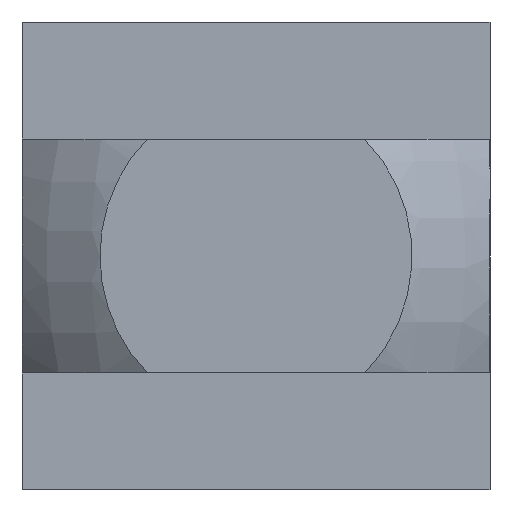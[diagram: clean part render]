
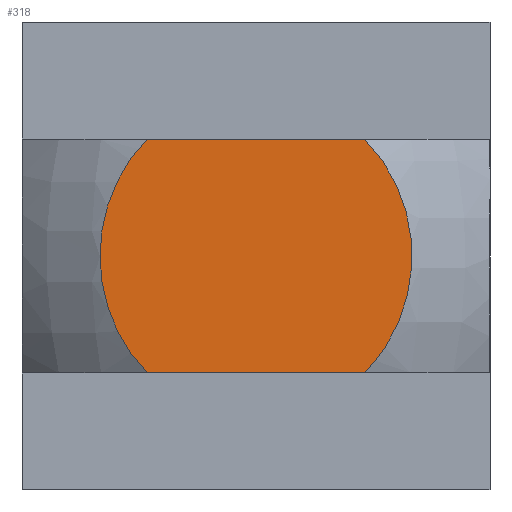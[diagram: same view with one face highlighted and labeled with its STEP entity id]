
A CAD part, left-side view. The second image highlights one B-rep face of the part: STEP entity #318.
In plain terms, the highlighted planar face has unit normal (-1, 0, 0).
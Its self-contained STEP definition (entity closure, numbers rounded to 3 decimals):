
#29 = CARTESIAN_POINT ( 'NONE',  ( -21., -5.334, 0.364 ) ) ;
#30 = CARTESIAN_POINT ( 'NONE',  ( -21., -5.298, 0.737 ) ) ;
#31 = CARTESIAN_POINT ( 'NONE',  ( -21., -5.158, 1.461 ) ) ;
#32 = CARTESIAN_POINT ( 'NONE',  ( -21., -5.055, 1.813 ) ) ;
#33 = CARTESIAN_POINT ( 'NONE',  ( -21., -4.848, 2.328 ) ) ;
#48 = CARTESIAN_POINT ( 'NONE',  ( -21., -5.193, -1.283 ) ) ;
#49 = CARTESIAN_POINT ( 'NONE',  ( -21., -5.298, -0.738 ) ) ;
#55 = CARTESIAN_POINT ( 'NONE',  ( -21., -5.333, -0.372 ) ) ;
#68 = CARTESIAN_POINT ( 'NONE',  ( -21., -5.148, -1.464 ) ) ;
#69 = CARTESIAN_POINT ( 'NONE',  ( -21., -3.969, -3.739 ) ) ;
#71 = CARTESIAN_POINT ( 'NONE',  ( -21., -4.983, -1.992 ) ) ;
#72 = CARTESIAN_POINT ( 'NONE',  ( -21., -4.607, -2.83 ) ) ;
#74 = CARTESIAN_POINT ( 'NONE',  ( -21., -4.777, -2.502 ) ) ;
#75 = CARTESIAN_POINT ( 'NONE',  ( -21., -5.044, -1.818 ) ) ;
#76 = CARTESIAN_POINT ( 'NONE',  ( -21., -4.2, -3.452 ) ) ;
#78 = CARTESIAN_POINT ( 'NONE',  ( -21., -3.712, -4. ) ) ;
#79 = CARTESIAN_POINT ( 'NONE',  ( -21., -3.712, 4. ) ) ;
#80 = CARTESIAN_POINT ( 'NONE',  ( -21., -3.712, -4. ) ) ;
#91 = CARTESIAN_POINT ( 'NONE',  ( -21., -8., 4. ) ) ;
#92 = LINE ( 'NONE', #91, #94 ) ;
#93 = DIRECTION ( 'NONE',  ( 0., 1., 0. ) ) ;
#94 = VECTOR ( 'NONE', #93, 1000. ) ;
#95 = CARTESIAN_POINT ( 'NONE',  ( -21., 3.712, 4. ) ) ;
#125 = ORIENTED_EDGE ( 'NONE', *, *, #126, .F. ) ;
#126 = EDGE_CURVE ( 'NONE', #127, #128, #865, .T. ) ;
#127 = VERTEX_POINT ( 'NONE', #79 ) ;
#128 = VERTEX_POINT ( 'NONE', #78 ) ;
#129 = ORIENTED_EDGE ( 'NONE', *, *, #130, .T. ) ;
#130 = EDGE_CURVE ( 'NONE', #127, #131, #92, .T. ) ;
#131 = VERTEX_POINT ( 'NONE', #95 ) ;
#132 = ORIENTED_EDGE ( 'NONE', *, *, #133, .F. ) ;
#133 = EDGE_CURVE ( 'NONE', #134, #131, #887, .T. ) ;
#134 = VERTEX_POINT ( 'NONE', #923 ) ;
#135 = ORIENTED_EDGE ( 'NONE', *, *, #136, .F. ) ;
#136 = EDGE_CURVE ( 'NONE', #128, #134, #948, .T. ) ;
#318 = ADVANCED_FACE ( 'NONE', ( #599 ), #597, .T. ) ;
#319 = EDGE_LOOP ( 'NONE', ( #125, #129, #132, #135 ) ) ;
#593 = DIRECTION ( 'NONE',  ( 0., 0., 1. ) ) ;
#594 = DIRECTION ( 'NONE',  ( -1., 0., 0. ) ) ;
#595 = CARTESIAN_POINT ( 'NONE',  ( -21., 8., -8. ) ) ;
#596 = AXIS2_PLACEMENT_3D ( 'NONE', #595, #594, #593 ) ;
#597 = PLANE ( 'NONE',  #596 ) ;
#599 = FACE_OUTER_BOUND ( 'NONE', #319, .T. ) ;
#852 = CARTESIAN_POINT ( 'NONE',  ( -21., -4.204, 3.446 ) ) ;
#853 = CARTESIAN_POINT ( 'NONE',  ( -21., -3.972, 3.736 ) ) ;
#854 = CARTESIAN_POINT ( 'NONE',  ( -21., -3.712, 4. ) ) ;
#862 = CARTESIAN_POINT ( 'NONE',  ( -21., -4.77, 2.497 ) ) ;
#863 = CARTESIAN_POINT ( 'NONE',  ( -21., -4.599, 2.825 ) ) ;
#864 = CARTESIAN_POINT ( 'NONE',  ( -21., -4.506, 2.984 ) ) ;
#865 = B_SPLINE_CURVE_WITH_KNOTS ( 'NONE', 3,
 ( #854, #853, #852, #864, #863, #862, #33, #32, #31, #30, #29, #55, #49, #48, #68, #75, #71, #74, #72, #76, #69, #80 ),
 .UNSPECIFIED., .F., .F.,
 ( 4, 2, 2, 2, 2, 2, 2, 2, 2, 2, 4 ),
 ( 0.013, 0.014, 0.014, 0.015, 0.016, 0.017, 0.018, 0.019, 0.019, 0.02, 0.021 ),
 .UNSPECIFIED. ) ;
#885 = CARTESIAN_POINT ( 'NONE',  ( -21., 3.971, -3.737 ) ) ;
#886 = CARTESIAN_POINT ( 'NONE',  ( -21., 3.712, -4. ) ) ;
#887 = B_SPLINE_CURVE_WITH_KNOTS ( 'NONE', 3,
 ( #886, #885, #942, #941, #940, #939, #938, #937, #936, #935, #934, #933, #932, #931, #930, #929, #928, #927, #926, #925, #924, #970 ),
 .UNSPECIFIED., .F., .F.,
 ( 4, 2, 2, 2, 2, 2, 2, 2, 2, 2, 4 ),
 ( 0.03, 0.031, 0.031, 0.032, 0.033, 0.034, 0.035, 0.036, 0.036, 0.037, 0.038 ),
 .UNSPECIFIED. ) ;
#923 = CARTESIAN_POINT ( 'NONE',  ( -21., 3.712, -4. ) ) ;
#924 = CARTESIAN_POINT ( 'NONE',  ( -21., 3.97, 3.738 ) ) ;
#925 = CARTESIAN_POINT ( 'NONE',  ( -21., 4.205, 3.446 ) ) ;
#926 = CARTESIAN_POINT ( 'NONE',  ( -21., 4.606, 2.83 ) ) ;
#927 = CARTESIAN_POINT ( 'NONE',  ( -21., 4.776, 2.505 ) ) ;
#928 = CARTESIAN_POINT ( 'NONE',  ( -21., 4.983, 1.991 ) ) ;
#929 = CARTESIAN_POINT ( 'NONE',  ( -21., 5.045, 1.815 ) ) ;
#930 = CARTESIAN_POINT ( 'NONE',  ( -21., 5.149, 1.461 ) ) ;
#931 = CARTESIAN_POINT ( 'NONE',  ( -21., 5.193, 1.282 ) ) ;
#932 = CARTESIAN_POINT ( 'NONE',  ( -21., 5.297, 0.742 ) ) ;
#933 = CARTESIAN_POINT ( 'NONE',  ( -21., 5.333, 0.376 ) ) ;
#934 = CARTESIAN_POINT ( 'NONE',  ( -21., 5.334, -0.367 ) ) ;
#935 = CARTESIAN_POINT ( 'NONE',  ( -21., 5.298, -0.736 ) ) ;
#936 = CARTESIAN_POINT ( 'NONE',  ( -21., 5.157, -1.466 ) ) ;
#937 = CARTESIAN_POINT ( 'NONE',  ( -21., 5.052, -1.82 ) ) ;
#938 = CARTESIAN_POINT ( 'NONE',  ( -21., 4.846, -2.331 ) ) ;
#939 = CARTESIAN_POINT ( 'NONE',  ( -21., 4.769, -2.498 ) ) ;
#940 = CARTESIAN_POINT ( 'NONE',  ( -21., 4.599, -2.826 ) ) ;
#941 = CARTESIAN_POINT ( 'NONE',  ( -21., 4.504, -2.987 ) ) ;
#942 = CARTESIAN_POINT ( 'NONE',  ( -21., 4.201, -3.451 ) ) ;
#945 = DIRECTION ( 'NONE',  ( 0., 1., 0. ) ) ;
#946 = VECTOR ( 'NONE', #945, 1000. ) ;
#947 = CARTESIAN_POINT ( 'NONE',  ( -21., -8., -4. ) ) ;
#948 = LINE ( 'NONE', #947, #946 ) ;
#970 = CARTESIAN_POINT ( 'NONE',  ( -21., 3.712, 4. ) ) ;
